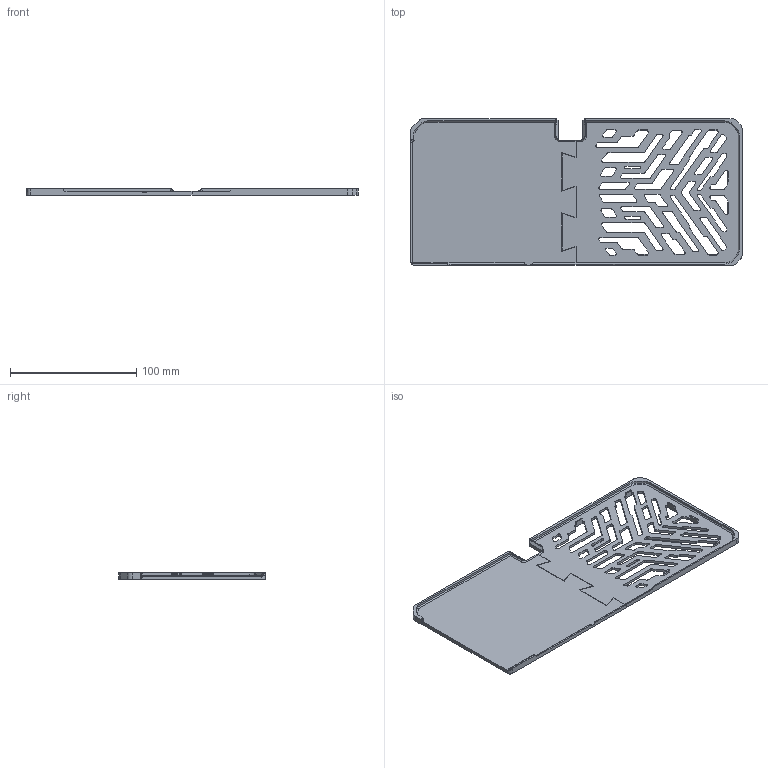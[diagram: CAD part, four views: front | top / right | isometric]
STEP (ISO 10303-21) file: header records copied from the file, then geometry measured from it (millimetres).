
FILE_DESCRIPTION((''),'2;1');
FILE_NAME('PC013-1B0_BACKPLATE_2','2025-08-07T15:59:59',('Kate'),(''),'CREO PARAMETRIC BY PTC INC, 2021304','CREO PARAMETRIC BY PTC INC, 2021304','');
FILE_SCHEMA(('AUTOMOTIVE_DESIGN { 1 0 10303 214 1 1 1 1 }'));
Length unit declared in the file: millimetre
Products named in the file (1): PC013-1B0_BACKPLATE_2
Bounding box: 263.1 x 116.25 x 4.8 mm (x, y, z)
Volume: 53778.7 mm3; surface area: 61312.7 mm2
Topology: 2 solids, 2 shells, 526 faces, 1540 edges, 1028 vertices
Faces by surface type: plane 280, cylinder 205, extrusion 20, cone 13, bspline 4, revolution 4
Entity records: 18795 total; most frequent: CARTESIAN_POINT 3798, ORIENTED_EDGE 3060, DIRECTION 2889, EDGE_CURVE 1530, VECTOR 1065, LINE 1045, VERTEX_POINT 1008, AXIS2_PLACEMENT_3D 910
